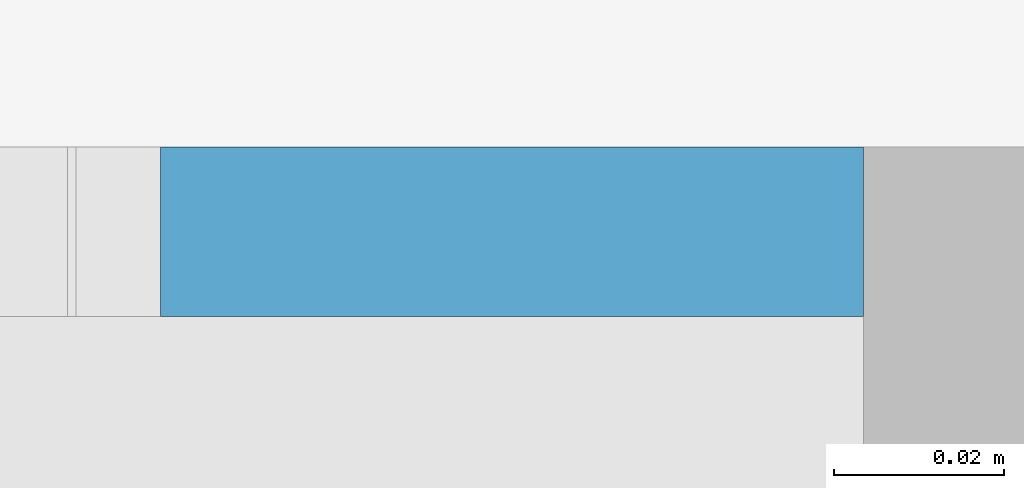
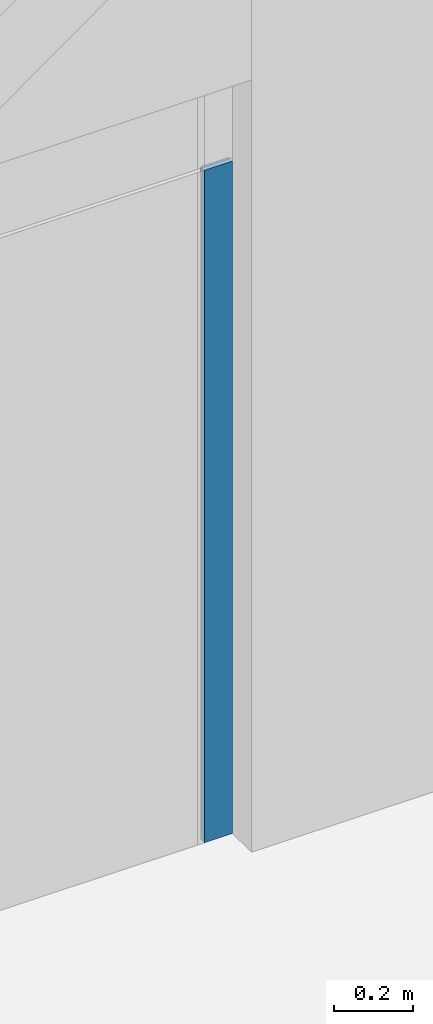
# One storey, part 16 of 46: 1 plate, 1 element without a shape of its own.
"""IFC2X3 building model written with IfcOpenShell, lengths in millimetres."""

from ifc_helpers import new_model, entity, si_unit, converted_unit, derived_unit, direction, frame, origin, origin_2d_with_axis, place, context, subcontext, project, spatial, rectangle, extrude, source, transform, mapped, material, layer, layer_set, layer_usage, type_object, type_shapes, element, aggregate, save


model = new_model("IFC2X3")

# Units and contexts
model_context = context("Model", 3, precision=0.01, world=origin(), true_north=direction((6.12303176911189e-17, 1.0)))
body_context = subcontext(model_context, "Body", "Model", "MODEL_VIEW")
ifc_project = project(units=[si_unit("LENGTHUNIT", "METRE", prefix="MILLI"), si_unit("AREAUNIT", "SQUARE_METRE"), si_unit("VOLUMEUNIT", "CUBIC_METRE"), converted_unit("PLANEANGLEUNIT", "DEGREE", entity("IfcRatioMeasure", 0.0174532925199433), si_unit("PLANEANGLEUNIT", "RADIAN"), dimensions=[0, 0, 0, 0, 0, 0, 0]), si_unit("MASSUNIT", "GRAM", prefix="KILO"), derived_unit("MASSDENSITYUNIT", [(si_unit("MASSUNIT", "GRAM", prefix="KILO"), 1), (si_unit("LENGTHUNIT", "METRE"), -3)]), si_unit("TIMEUNIT", "SECOND"), si_unit("FREQUENCYUNIT", "HERTZ"), si_unit("THERMODYNAMICTEMPERATUREUNIT", "DEGREE_CELSIUS"), derived_unit("THERMALTRANSMITTANCEUNIT", [(si_unit("MASSUNIT", "GRAM", prefix="KILO"), 1), (si_unit("THERMODYNAMICTEMPERATUREUNIT", "KELVIN"), -1), (si_unit("TIMEUNIT", "SECOND"), -3)]), derived_unit("VOLUMETRICFLOWRATEUNIT", [(si_unit("LENGTHUNIT", "METRE"), 3), (si_unit("TIMEUNIT", "SECOND"), -1)]), si_unit("ELECTRICCURRENTUNIT", "AMPERE"), si_unit("ELECTRICVOLTAGEUNIT", "VOLT"), si_unit("POWERUNIT", "WATT"), si_unit("FORCEUNIT", "NEWTON", prefix="KILO"), si_unit("ILLUMINANCEUNIT", "LUX"), si_unit("LUMINOUSFLUXUNIT", "LUMEN"), si_unit("LUMINOUSINTENSITYUNIT", "CANDELA"), derived_unit("USERDEFINED", [(si_unit("MASSUNIT", "GRAM", prefix="KILO"), -1), (si_unit("LENGTHUNIT", "METRE"), -2), (si_unit("TIMEUNIT", "SECOND"), 3), (si_unit("LUMINOUSFLUXUNIT", "LUMEN"), 1)]), derived_unit("LINEARVELOCITYUNIT", [(si_unit("LENGTHUNIT", "METRE"), 1), (si_unit("TIMEUNIT", "SECOND"), -1)]), si_unit("PRESSUREUNIT", "PASCAL"), derived_unit("USERDEFINED", [(si_unit("LENGTHUNIT", "METRE"), -2), (si_unit("MASSUNIT", "GRAM", prefix="KILO"), 1), (si_unit("TIMEUNIT", "SECOND"), -2)])], contexts=[model_context])

# Site, building, storey
site_placement = place(None, frame((-151.875543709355, 2715.0, 0.0)))
site = spatial("IfcSite", under=ifc_project, at=site_placement, Name="Surface", CompositionType="ELEMENT")
building_placement = place(site_placement, origin())
building = spatial("IfcBuilding", under=site, at=building_placement, CompositionType="ELEMENT")
storey_placement = place(building_placement, frame((0.0, 0.0, 10060.0)))
storey = spatial("IfcBuildingStorey", under=building, at=storey_placement, Name="4 korrus", CompositionType="ELEMENT", Elevation=10060.0000000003)

# Curtain wall, plate
curtain_wall_type = type_object("IfcCurtainWallType", Name="Curtain Wall:Klaassein KLS-20", PredefinedType="NOTDEFINED")
curtain_wall_placement = place(storey_placement, frame((0.0, 0.0, -10060.0)))
curtain_wall = element("IfcCurtainWall", 1, at=curtain_wall_placement, inside=storey, type_object=curtain_wall_type, Name="Curtain Wall:Klaassein KLS-20", ObjectType="Curtain Wall:Klaassein KLS-20")
ifc_material = material(Name="<Unnamed>")
ifc_layer = layer(ifc_material, 20.0)
ifc_layer_set = layer_set([ifc_layer], Name="Curtain Wall:Klaassein KLS-01")
ifc_layer_usage = layer_usage(ifc_layer_set, "AXIS3", "POSITIVE", 0.0)
plate_type = type_object("IfcPlateType", Name="Glazed", PredefinedType="CURTAIN_PANEL", material=ifc_layer_set)
shared_shape = source(origin(), body_context, "Body", "SweptSolid", [
    extrude(rectangle(XDim=20.0, YDim=82.9293200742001, at=origin_2d_with_axis()), frame((0.0, 0.0, 0.0), z_axis=(0.0, 0.0, 1.0), x_axis=(0.0, 1.0, 0.0)), (0.0, 0.0, 1.0), 2090.0),
])
type_shapes(plate_type, [shared_shape])
plate_placement = place(curtain_wall_placement, frame((29902.5524993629, 4355.04493399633, 10060.0), z_axis=(0.0, 0.0, 1.0), x_axis=(-1.0, 0.0, 0.0)))
plate = element("IfcPlate", 2, at=plate_placement, type_object=plate_type, material=ifc_layer_usage, Name="System Panel:Glazed", ObjectType="Glazed", context=body_context, shape_type="MappedRepresentation", body=[
    mapped(shared_shape, transform((0.0, 0.0, 0.0), scale=1.0)),
])
aggregate(curtain_wall, [plate])

save(model, "model.ifc")
